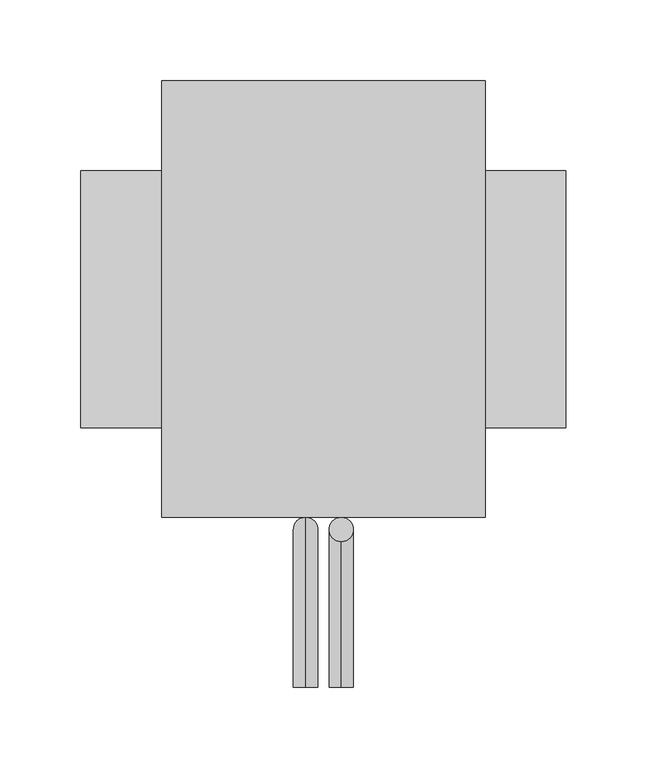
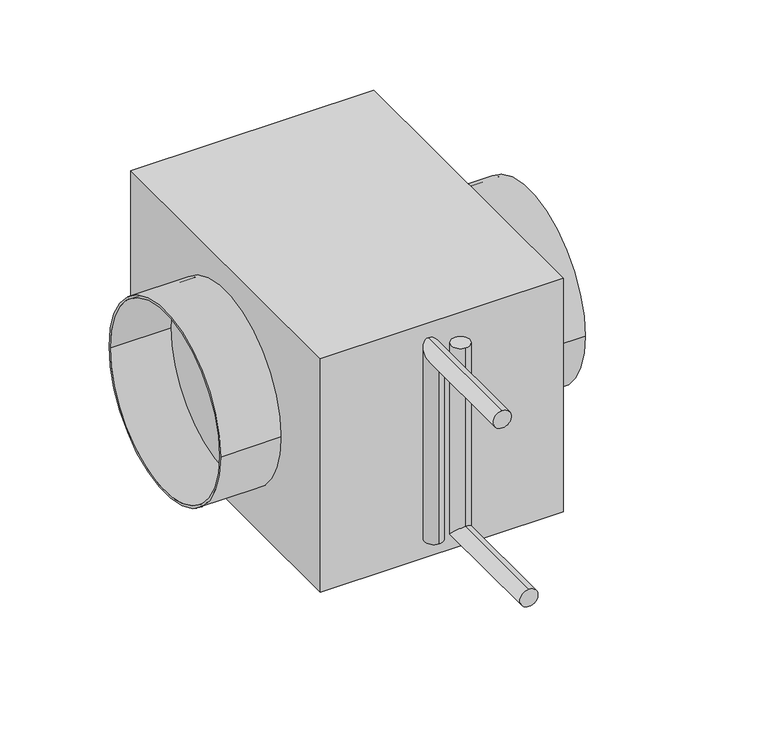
"""IFC4 building model written with IfcOpenShell, lengths in millimetres: proxy geometry, СВ_ВоздухонагревательВодяной_КанальныйКруглый_DN160-315_SKH-W : SKH-W-160."""

from ifc_helpers import new_model, si_unit, point, frame, origin, origin_2d, place, context, project, spatial, polyline, circle_curve, ellipse_curve, trimmed, segment, composite_curve, outline, extrude, source, transform, mapped, element, save
from ifc_brep_helpers import plane_surface, cylinder_surface, advanced_brep


def mechanical_equipment_e96d5850(model_context):
    return source(origin(), model_context, "Body", "SolidModel", [
        advanced_brep(
        [(11.0, -240.0, -89.0), (11.0, -240.0, -74.0), (11.0, -135.0, -89.0), (11.0, -150.0, -74.0), (11.0, -135.0, 81.5), (11.0, -150.0, 81.5)],
        [
            (0, 1, circle_curve(frame((11.0, -240.0, -81.5), z_axis=(0.0, -1.0, 0.0), x_axis=(0.0, 0.0, 1.0)), 7.5)),
            (1, 0, circle_curve(frame((11.0, -240.0, -81.5), z_axis=(0.0, -1.0, 0.0), x_axis=(0.0, 0.0, 1.0)), 7.5)),
            (0, 2),
            (2, 3, ellipse_curve(frame((11.0, -142.5, -81.5), z_axis=(0.0, -0.7071067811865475, -0.7071067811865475), x_axis=(0.0, -0.7071067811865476, 0.7071067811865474)), 10.6066017, 7.5)),
            (3, 1),
            (3, 2, ellipse_curve(frame((11.0, -142.5, -81.5), z_axis=(0.0, -0.7071067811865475, -0.7071067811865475), x_axis=(0.0, -0.7071067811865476, 0.7071067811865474)), 10.6066017, 7.5)),
            (4, 5, circle_curve(frame((11.0, -142.5, 81.5), z_axis=(0.0, 0.0, 1.0), x_axis=(0.0, -1.0, 0.0)), 7.5)),
            (5, 4, circle_curve(frame((11.0, -142.5, 81.5), z_axis=(0.0, 0.0, 1.0), x_axis=(0.0, -1.0, 0.0)), 7.5)),
            (2, 4),
            (5, 3),
        ],
        [
            plane_surface(frame((11.0, -240.0, -81.5), z_axis=(0.0, -1.0, 0.0), x_axis=(1.0, 0.0, 0.0))),
            cylinder_surface(frame((11.0, -240.0, -81.5), z_axis=(0.0, -1.0, 0.0), x_axis=(0.0, 0.0, 1.0)), 7.5),
            plane_surface(frame((11.0, -142.5, 81.5), z_axis=(0.0, 0.0, 1.0), x_axis=(1.0, 0.0, 0.0))),
            cylinder_surface(frame((11.0, -142.5, -81.5), z_axis=(0.0, 0.0, -1.0), x_axis=(0.0, -1.0, 0.0)), 7.5),
        ],
        [
            (0, [[1, 2]]),
            (1, [[-1, 3, 4, 5]]),
            (1, [[-2, -5, 6, -3]]),
            (2, [[7, 8]]),
            (3, [[-4, 9, -8, 10]]),
            (3, [[-6, -10, -7, -9]]),
        ],
    ),
        advanced_brep(
        [(-11.0, -240.0, 74.0), (-11.0, -240.0, 89.0), (-11.0, -150.0, 74.0), (-11.0, -135.0, 89.0), (-11.0, -150.0, -81.5), (-11.0, -135.0, -81.5)],
        [
            (0, 1, circle_curve(frame((-11.0, -240.0, 81.5), z_axis=(0.0, -1.0, 0.0), x_axis=(0.0, 0.0, 1.0)), 7.5)),
            (1, 0, circle_curve(frame((-11.0, -240.0, 81.5), z_axis=(0.0, -1.0, 0.0), x_axis=(0.0, 0.0, 1.0)), 7.5)),
            (0, 2),
            (2, 3, ellipse_curve(frame((-11.0, -142.5, 81.5), z_axis=(0.0, -0.7071067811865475, 0.7071067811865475), x_axis=(0.0, -0.7071067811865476, -0.7071067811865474)), 10.6066017, 7.5)),
            (3, 1),
            (3, 2, ellipse_curve(frame((-11.0, -142.5, 81.5), z_axis=(0.0, -0.7071067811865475, 0.7071067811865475), x_axis=(0.0, -0.7071067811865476, -0.7071067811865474)), 10.6066017, 7.5)),
            (4, 5, circle_curve(frame((-11.0, -142.5, -81.5), z_axis=(0.0, 0.0, -1.0), x_axis=(0.0, 1.0, 0.0)), 7.5)),
            (5, 4, circle_curve(frame((-11.0, -142.5, -81.5), z_axis=(0.0, 0.0, -1.0), x_axis=(0.0, 1.0, 0.0)), 7.5)),
            (2, 4),
            (5, 3),
        ],
        [
            plane_surface(frame((-11.0, -240.0, 81.5), z_axis=(0.0, -1.0, 0.0), x_axis=(1.0, 0.0, 0.0))),
            cylinder_surface(frame((-11.0, -240.0, 81.5), z_axis=(0.0, -1.0, 0.0), x_axis=(0.0, 0.0, 1.0)), 7.5),
            plane_surface(frame((-11.0, -142.5, -81.5), z_axis=(0.0, 0.0, -1.0), x_axis=(1.0, 0.0, 0.0))),
            cylinder_surface(frame((-11.0, -142.5, 81.5), z_axis=(0.0, 0.0, 1.0), x_axis=(0.0, 1.0, 0.0)), 7.5),
        ],
        [
            (0, [[1, 2]]),
            (1, [[-1, 3, 4, 5]]),
            (1, [[-2, -5, 6, -3]]),
            (2, [[7, 8]]),
            (3, [[-4, 9, -8, 10]]),
            (3, [[-6, -10, -7, -9]]),
        ],
    ),
        extrude(outline(polyline([(100.0, -135.0), (-100.0, -135.0), (-100.0, 135.0), (100.0, 135.0), (100.0, -135.0)])), frame((0.0, 0.0, -101.5), z_axis=(0.0, 0.0, 1.0), x_axis=(1.0, 0.0, 0.0)), (0.0, 0.0, 1.0), 203.0),
        extrude(outline(composite_curve([segment(trimmed(circle_curve(origin_2d(), 79.5), [point((-79.5, 0.0))], [point((79.5, 0.0))], False, "CARTESIAN"), True, "CONTINUOUS"), segment(trimmed(circle_curve(origin_2d(), 79.5), [point((79.5, 0.0))], [point((-79.5, 0.0))], False, "CARTESIAN"), True, "CONTINUOUS")], self_intersect=False), holes=[composite_curve([segment(trimmed(circle_curve(origin_2d(), 77.5), [point((-77.5, 0.0))], [point((77.5, 0.0))], True, "CARTESIAN"), True, "CONTINUOUS"), segment(trimmed(circle_curve(origin_2d(), 77.5), [point((77.5, 0.0))], [point((-77.5, 0.0))], True, "CARTESIAN"), True, "CONTINUOUS")], self_intersect=False)]), frame((-150.0, 0.0, 0.0), z_axis=(1.0, 0.0, 0.0), x_axis=(0.0, 1.0, 0.0)), (0.0, 0.0, 1.0), 50.0),
        extrude(outline(composite_curve([segment(trimmed(circle_curve(origin_2d(), 79.5), [point((-79.5, 0.0))], [point((79.5, 0.0))], False, "CARTESIAN"), True, "CONTINUOUS"), segment(trimmed(circle_curve(origin_2d(), 79.5), [point((79.5, 0.0))], [point((-79.5, 0.0))], False, "CARTESIAN"), True, "CONTINUOUS")], self_intersect=False), holes=[composite_curve([segment(trimmed(circle_curve(origin_2d(), 77.5), [point((-77.5, 0.0))], [point((77.5, 0.0))], True, "CARTESIAN"), True, "CONTINUOUS"), segment(trimmed(circle_curve(origin_2d(), 77.5), [point((77.5, 0.0))], [point((-77.5, 0.0))], True, "CARTESIAN"), True, "CONTINUOUS")], self_intersect=False)]), frame((100.0, 0.0, 0.0), z_axis=(1.0, 0.0, 0.0), x_axis=(0.0, 1.0, 0.0)), (0.0, 0.0, 1.0), 50.0),
    ])


if __name__ == "__main__":
    model = new_model("IFC4")
    model_context = context("Model", 3, world=origin())
    ifc_project = project(units=[si_unit("LENGTHUNIT", "METRE", prefix="MILLI")], contexts=[model_context])
    site = spatial("IfcSite", under=ifc_project)
    building = spatial("IfcBuilding", under=site)
    placement = place(None, origin())
    mechanical_equipment_shape = mechanical_equipment_e96d5850(model_context)
    element("IfcBuildingElementProxy", 1, Name="СВ_ВоздухонагревательВодяной_КанальныйКруглый_DN160-315_SKH-W : SKH-W-160", ObjectType="СВ_ВоздухонагревательВодяной_КанальныйКруглый_DN160-315_SKH-W : SKH-W-160", at=placement, inside=building, context=model_context, shape_type="MappedRepresentation", body=[
        mapped(mechanical_equipment_shape, transform((0.0, 0.0, 0.0), x_axis=(1.0, 0.0, 0.0), y_axis=(0.0, 1.0, 0.0), z_axis=(0.0, 0.0, 1.0))),
    ])
    save(model, "model.ifc")
